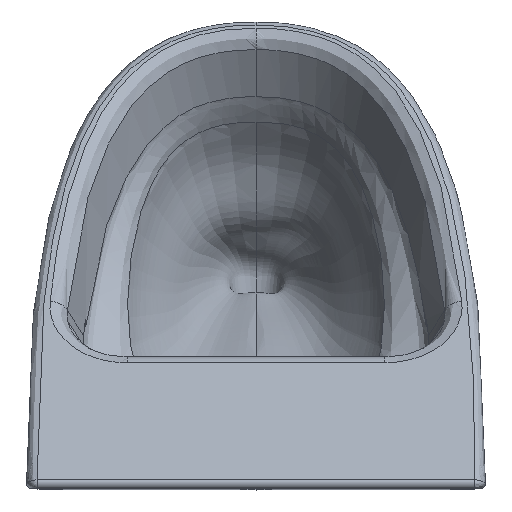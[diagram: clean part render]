
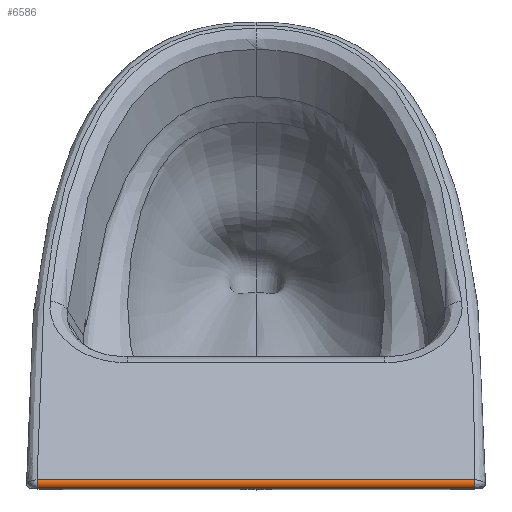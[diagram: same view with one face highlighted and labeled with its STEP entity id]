
A CAD part, top view. The second image highlights one B-rep face of the part: STEP entity #6586.
In plain terms, the highlighted cylindrical face has radius 3.5 mm (diameter 7 mm), a partial arc.
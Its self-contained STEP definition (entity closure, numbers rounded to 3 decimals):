
#24 = CARTESIAN_POINT ( 'NONE',  ( 145.499, 3.5, -3.5 ) ) ;
#71 = CARTESIAN_POINT ( 'NONE',  ( -145.498, 3.713, 0. ) ) ;
#288 = FACE_OUTER_BOUND ( 'NONE', #396, .T. ) ;
#396 = EDGE_LOOP ( 'NONE', ( #6168, #1842, #7881, #3377, #7664, #8467 ) ) ;
#737 = CARTESIAN_POINT ( 'NONE',  ( 145.498, 5.184, -0.404 ) ) ;
#1004 = CARTESIAN_POINT ( 'NONE',  ( 0., 5.774, -0.84 ) ) ;
#1193 = DIRECTION ( 'NONE',  ( 1., 0., 0. ) ) ;
#1440 = EDGE_CURVE ( 'NONE', #4608, #12542, #13825, .T. ) ;
#1613 = CARTESIAN_POINT ( 'NONE',  ( 145.498, 5.774, -0.84 ) ) ;
#1842 = ORIENTED_EDGE ( 'NONE', *, *, #4464, .T. ) ;
#2037 = CARTESIAN_POINT ( 'NONE',  ( -145.498, 3.921, -0.02 ) ) ;
#2238 = VECTOR ( 'NONE', #3016, 1000. ) ;
#2326 = CARTESIAN_POINT ( 'NONE',  ( -145.498, 3.5, 0. ) ) ;
#2767 = CARTESIAN_POINT ( 'NONE',  ( 145.498, 5.509, -0.613 ) ) ;
#2940 = CIRCLE ( 'NONE', #8999, 3.5 ) ;
#3016 = DIRECTION ( 'NONE',  ( 1., 0., 0. ) ) ;
#3028 = CARTESIAN_POINT ( 'NONE',  ( 145.499, 0., -3.5 ) ) ;
#3267 = CARTESIAN_POINT ( 'NONE',  ( -145.498, 4.318, -0.097 ) ) ;
#3339 = CARTESIAN_POINT ( 'NONE',  ( -145.498, 5.499, -0.605 ) ) ;
#3377 = ORIENTED_EDGE ( 'NONE', *, *, #5619, .F. ) ;
#3413 = CARTESIAN_POINT ( 'NONE',  ( -145.498, 4.293, -0.091 ) ) ;
#3477 = DIRECTION ( 'NONE',  ( 1., 0., 0. ) ) ;
#4116 = CARTESIAN_POINT ( 'NONE',  ( 0., 0., -3.5 ) ) ;
#4352 = AXIS2_PLACEMENT_3D ( 'NONE', #9231, #4730, #9160 ) ;
#4464 = EDGE_CURVE ( 'NONE', #13312, #11588, #6300, .T. ) ;
#4505 = DIRECTION ( 'NONE',  ( 0., 0., 1. ) ) ;
#4529 = CARTESIAN_POINT ( 'NONE',  ( -145.498, 0., -3.5 ) ) ;
#4608 = VERTEX_POINT ( 'NONE', #13926 ) ;
#4730 = DIRECTION ( 'NONE',  ( -1., 0., 0. ) ) ;
#5264 = EDGE_CURVE ( 'NONE', #7396, #11588, #2940, .T. ) ;
#5529 = CARTESIAN_POINT ( 'NONE',  ( -145.498, 4.539, -0.156 ) ) ;
#5606 = CARTESIAN_POINT ( 'NONE',  ( -145.498, 4.233, -0.077 ) ) ;
#5619 = EDGE_CURVE ( 'NONE', #12522, #7396, #10402, .T. ) ;
#5763 = VECTOR ( 'NONE', #6464, 1000. ) ;
#6120 = CYLINDRICAL_SURFACE ( 'NONE', #4352, 3.5 ) ;
#6168 = ORIENTED_EDGE ( 'NONE', *, *, #11166, .T. ) ;
#6300 = LINE ( 'NONE', #4116, #2238 ) ;
#6464 = DIRECTION ( 'NONE',  ( -1., 0., 0. ) ) ;
#6556 = CARTESIAN_POINT ( 'NONE',  ( -145.498, 5.157, -0.386 ) ) ;
#6586 = ADVANCED_FACE ( 'NONE', ( #288 ), #6120, .T. ) ;
#6776 = CARTESIAN_POINT ( 'NONE',  ( -145.498, 4.645, -0.191 ) ) ;
#7396 = VERTEX_POINT ( 'NONE', #9968 ) ;
#7574 = CARTESIAN_POINT ( 'NONE',  ( -145.498, 5.774, -0.84 ) ) ;
#7604 = CIRCLE ( 'NONE', #14073, 3.5 ) ;
#7664 = ORIENTED_EDGE ( 'NONE', *, *, #13475, .T. ) ;
#7718 = CARTESIAN_POINT ( 'NONE',  ( -145.498, 4.332, -0.1 ) ) ;
#7881 = ORIENTED_EDGE ( 'NONE', *, *, #5264, .F. ) ;
#8266 = CARTESIAN_POINT ( 'NONE',  ( -145.498, 5.774, -0.84 ) ) ;
#8467 = ORIENTED_EDGE ( 'NONE', *, *, #1440, .F. ) ;
#8999 = AXIS2_PLACEMENT_3D ( 'NONE', #24, #1193, #11142 ) ;
#9160 = DIRECTION ( 'NONE',  ( 0., 0., 1. ) ) ;
#9204 = CARTESIAN_POINT ( 'NONE',  ( 145.498, 5.774, -0.84 ) ) ;
#9231 = CARTESIAN_POINT ( 'NONE',  ( 0., 3.5, -3.5 ) ) ;
#9381 = CARTESIAN_POINT ( 'NONE',  ( 145.499, 4.414, -0.096 ) ) ;
#9968 = CARTESIAN_POINT ( 'NONE',  ( 145.499, 3.5, 0. ) ) ;
#10402 = B_SPLINE_CURVE_WITH_KNOTS ( 'NONE', 3,
 ( #1613, #2767, #737, #9381, #13661, #10541 ),
 .UNSPECIFIED., .F., .F.,
 ( 4, 2, 4 ),
 ( 0., 0.5, 1. ),
 .UNSPECIFIED. ) ;
#10541 = CARTESIAN_POINT ( 'NONE',  ( 145.499, 3.5, 0. ) ) ;
#11116 = CARTESIAN_POINT ( 'NONE',  ( -145.498, 4.401, -0.118 ) ) ;
#11142 = DIRECTION ( 'NONE',  ( 0., -1., 0. ) ) ;
#11166 = EDGE_CURVE ( 'NONE', #4608, #13312, #7604, .T. ) ;
#11324 = CARTESIAN_POINT ( 'NONE',  ( -145.498, 3.5, -3.5 ) ) ;
#11588 = VERTEX_POINT ( 'NONE', #3028 ) ;
#12522 = VERTEX_POINT ( 'NONE', #9204 ) ;
#12542 = VERTEX_POINT ( 'NONE', #8266 ) ;
#13050 = LINE ( 'NONE', #1004, #5763 ) ;
#13219 = CARTESIAN_POINT ( 'NONE',  ( -145.498, 4.171, -0.065 ) ) ;
#13293 = CARTESIAN_POINT ( 'NONE',  ( -145.498, 4.374, -0.111 ) ) ;
#13312 = VERTEX_POINT ( 'NONE', #4529 ) ;
#13475 = EDGE_CURVE ( 'NONE', #12522, #12542, #13050, .T. ) ;
#13661 = CARTESIAN_POINT ( 'NONE',  ( 145.499, 3.969, 0. ) ) ;
#13825 = B_SPLINE_CURVE_WITH_KNOTS ( 'NONE', 3,
 ( #2326, #71, #2037, #13219, #5606, #3413, #3267, #7718, #13293, #11116, #5529, #6776, #6556, #3339, #7574 ),
 .UNSPECIFIED., .F., .F.,
 ( 4, 2, 1, 2, 2, 2, 2, 4 ),
 ( 0., 0.25, 0.312, 0.328, 0.344, 0.375, 0.5, 1. ),
 .UNSPECIFIED. ) ;
#13926 = CARTESIAN_POINT ( 'NONE',  ( -145.498, 3.5, 0. ) ) ;
#14073 = AXIS2_PLACEMENT_3D ( 'NONE', #11324, #3477, #4505 ) ;
